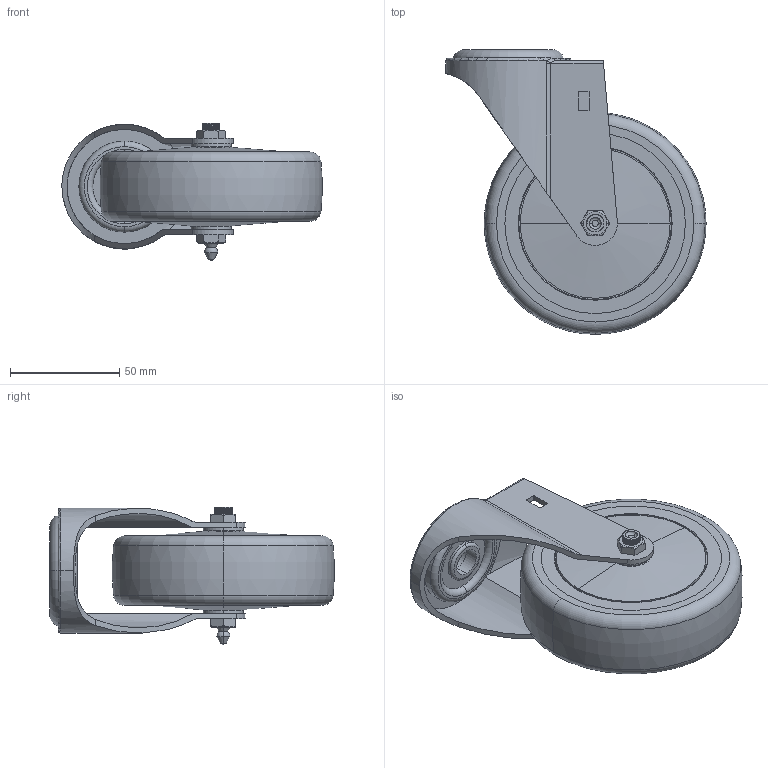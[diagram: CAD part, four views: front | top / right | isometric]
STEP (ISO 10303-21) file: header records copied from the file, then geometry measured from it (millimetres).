
FILE_DESCRIPTION (( 'STEP AP214' ), '1' );
FILE_NAME ('SCC-BH20S414-TPRB 3D STEP.STEP', '2024-09-11T04:51:33', ( '' ), ( '' ), 'SwSTEP 2.0', 'SolidWorks 2016', '' );
FILE_SCHEMA (( 'AUTOMOTIVE_DESIGN' ));
Length unit declared in the file: inch
Products named in the file (1): SCC-BH20S414-TPRB 3D STEP
Bounding box: 119 x 130.11 x 62.99 mm (x, y, z)
Volume: 337885.5 mm3; surface area: 77685.1 mm2
Topology: 5 solids, 5 shells, 268 faces, 655 edges, 417 vertices
Faces by surface type: plane 86, cylinder 76, bspline 49, torus 45, cone 8, sphere 4
Entity records: 15006 total; most frequent: CARTESIAN_POINT 5415, ORIENTED_EDGE 1294, DIRECTION 1172, EDGE_CURVE 647, AXIS2_PLACEMENT_3D 455, VERTEX_POINT 413, EDGE_LOOP 306, UNCERTAINTY_MEASURE_WITH_UNIT 275
